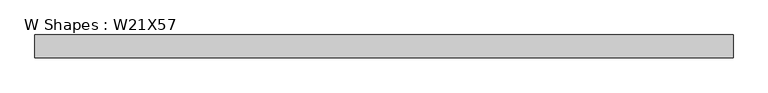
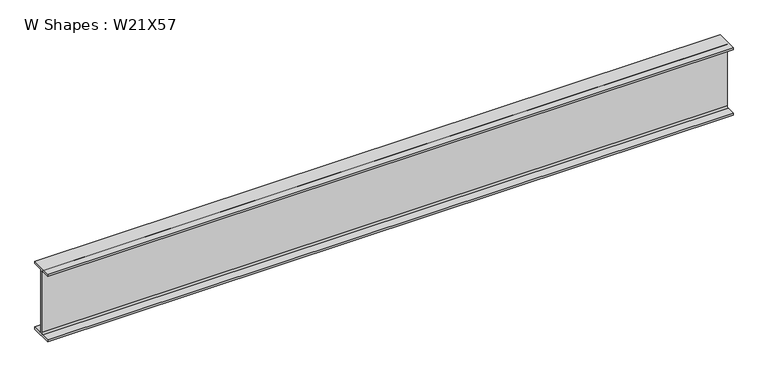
"""IFC4 building model written with IfcOpenShell, lengths in millimetres: beam geometry, W Shapes : W21X57."""

from ifc_helpers import new_model, si_unit, point, frame, frame_2d, origin, place, context, project, spatial, polyline, circle_curve, trimmed, segment, composite_curve, outline, extrude, source, transform, mapped, element, save


def w_shapes_w21x57_61476ac7(model_context):
    return source(origin(), model_context, "Body", "SweptSolid", [
        extrude(outline(composite_curve([segment(polyline([(83.312, -251.46), (83.312, -267.97), (-83.312, -267.97), (-83.312, -251.46), (-17.8435, -251.46)]), True, "CONTINUOUS"), segment(trimmed(circle_curve(frame_2d((-17.8435, -238.76)), 12.7), [point((-17.8435, -251.46))], [point((-5.1435, -238.76))], True, "CARTESIAN"), True, "CONTINUOUS"), segment(polyline([(-5.1435, -238.76), (-5.1435, 238.76)]), True, "CONTINUOUS"), segment(trimmed(circle_curve(frame_2d((-17.8435, 238.76)), 12.7), [point((-5.1435, 238.76))], [point((-17.8435, 251.46))], True, "CARTESIAN"), True, "CONTINUOUS"), segment(polyline([(-17.8435, 251.46), (-83.312, 251.46), (-83.312, 267.97), (83.312, 267.97), (83.312, 251.46), (17.8435, 251.46)]), True, "CONTINUOUS"), segment(trimmed(circle_curve(frame_2d((17.8435, 238.76)), 12.7), [point((17.8435, 251.46))], [point((5.1435, 238.76))], True, "CARTESIAN"), True, "CONTINUOUS"), segment(polyline([(5.1435, 238.76), (5.1435, -238.76)]), True, "CONTINUOUS"), segment(trimmed(circle_curve(frame_2d((17.8435, -238.76)), 12.7), [point((5.1435, -238.76))], [point((17.8435, -251.46))], True, "CARTESIAN"), True, "CONTINUOUS"), segment(polyline([(17.8435, -251.46), (83.312, -251.46)]), True, "CONTINUOUS")], self_intersect=False)), frame((-2464.8329322, 0.0, 0.0), z_axis=(1.0, 0.0, 0.0), x_axis=(0.0, 1.0, 0.0)), (0.0, 0.0, 1.0), 5131.2829322),
    ])


if __name__ == "__main__":
    model = new_model("IFC4")
    model_context = context("Model", 3, world=origin())
    ifc_project = project(units=[si_unit("LENGTHUNIT", "METRE", prefix="MILLI")], contexts=[model_context])
    site = spatial("IfcSite", under=ifc_project)
    building = spatial("IfcBuilding", under=site)
    placement = place(None, origin())
    w_shapes_w21x57_shape = w_shapes_w21x57_61476ac7(model_context)
    element("IfcBeam", 1, ObjectType="W Shapes : W21X57", at=placement, inside=building, context=model_context, shape_type="MappedRepresentation", body=[
        mapped(w_shapes_w21x57_shape, transform((0.0, 0.0, 0.0), x_axis=(1.0, 0.0, 0.0), y_axis=(0.0, 1.0, 0.0), z_axis=(0.0, 0.0, 1.0))),
    ])
    save(model, "model.ifc")
